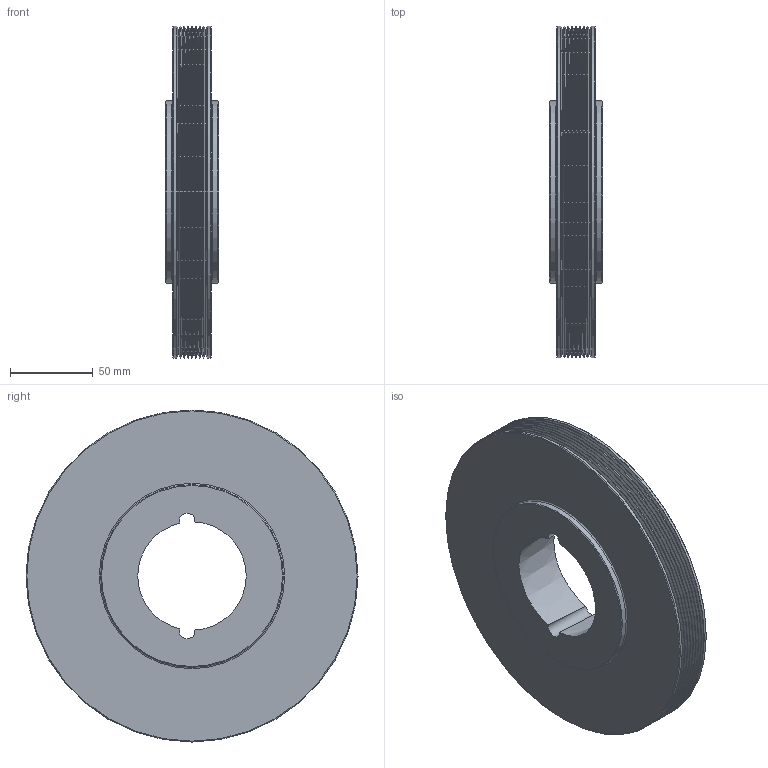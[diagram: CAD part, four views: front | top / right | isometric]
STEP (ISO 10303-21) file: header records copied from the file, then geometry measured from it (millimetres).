
FILE_DESCRIPTION(/* description */ (''),/* implementation_level */ '2;1');
FILE_NAME(/* name */ 'C:\Users\stagistacad\Desktop\48108225.stp',/* time_stamp */ '2018-06-14T10:26:22+02:00',/* author */ ('stagistacad'),/* organization */ (''),/* preprocessor_version */ 'ST-DEVELOPER v15.6',/* originating_system */ 'Autodesk Inventor 2015',/* authorisation */ '');
FILE_SCHEMA (('AUTOMOTIVE_DESIGN { 1 0 10303 214 3 1 1 }'));
Length unit declared in the file: millimetre
Products named in the file (1): 48108225
Bounding box: 32 x 200 x 200 mm (x, y, z)
Volume: 676522.9 mm3; surface area: 93904.3 mm2
Topology: 1 solids, 1 shells, 53 faces, 110 edges, 60 vertices
Faces by surface type: cone 23, torus 19, cylinder 7, plane 4
Full cylindrical faces by diameter (mm): 110 x2, 200 x2
Entity records: 1216 total; most frequent: CARTESIAN_POINT 235, DIRECTION 222, ORIENTED_EDGE 128, AXIS2_PLACEMENT_3D 111, EDGE_LOOP 100, EDGE_CURVE 64, VERTEX_POINT 58, CIRCLE 57
